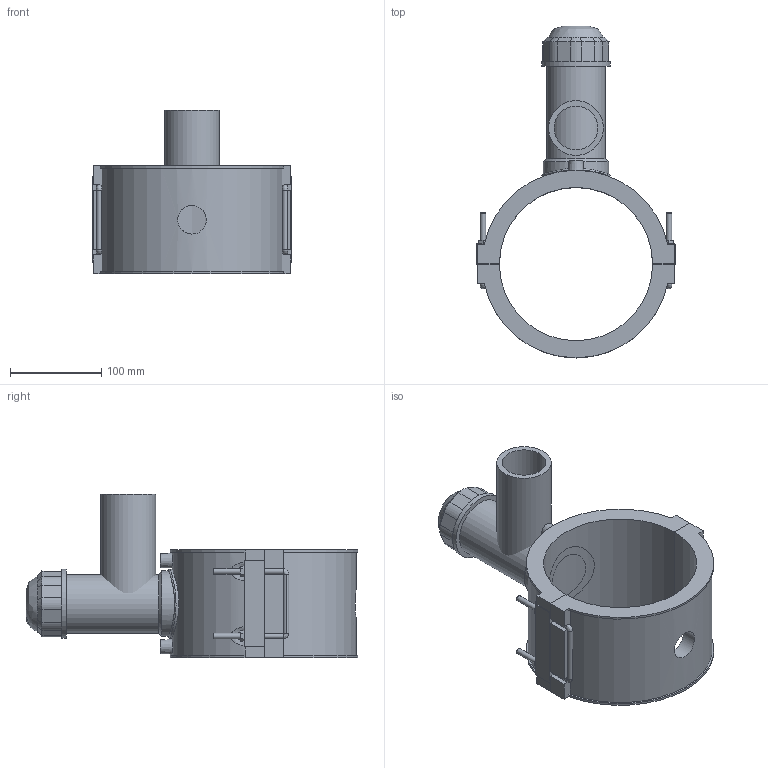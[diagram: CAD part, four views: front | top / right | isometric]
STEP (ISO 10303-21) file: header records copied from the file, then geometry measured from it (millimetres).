
FILE_DESCRIPTION(/* description */ ('PLASSON TAPPING SADDLE 6''''IPS x 2''''IPS'),/* implementation_level */ '2;1');
FILE_NAME(/* name */ 'C:\Dropbox\KIMPROJECTS-Inventor 2019\99-16-3568-Processing Inch\ASTM ElectroFusion 2021\5963BBP_5963BUP\5963BBP3060020.ipt.stp',/* time_stamp */ '2021-08-30T09:57:23+03:00',/* author */ ('KIM'),/* organization */ (''),/* preprocessor_version */ 'ST-DEVELOPER v17.2',/* originating_system */ 'Autodesk Inventor 2019',/* authorisation */ '');
FILE_SCHEMA (('AUTOMOTIVE_DESIGN { 1 0 10303 214 3 1 1 }'));
Length unit declared in the file: inch
Products named in the file (1): 5963BBP3060020
Bounding box: 217.9 x 363.85 x 178.94 mm (x, y, z)
Volume: 1700891.6 mm3; surface area: 299961.8 mm2
Topology: 3 solids, 3 shells, 187 faces, 489 edges, 313 vertices
Faces by surface type: plane 115, cylinder 47, cone 15, bspline 10
Full cylindrical faces by diameter (mm): 4 x2, 6 x8, 10 x2, 31.36 x1, 48.08 x1, 52.92 x1, 60.1 x1, 64.26 x1, 71.82 x1, 75.6 x2
Entity records: 6744 total; most frequent: CARTESIAN_POINT 2109, ORIENTED_EDGE 962, DIRECTION 932, EDGE_CURVE 481, AXIS2_PLACEMENT_3D 315, VERTEX_POINT 313, LINE 302, VECTOR 302
